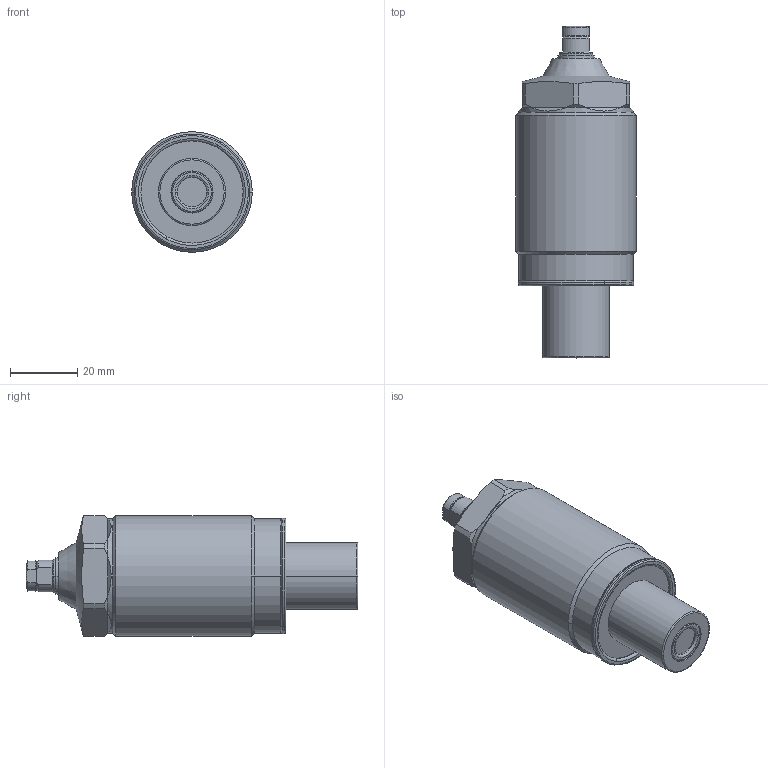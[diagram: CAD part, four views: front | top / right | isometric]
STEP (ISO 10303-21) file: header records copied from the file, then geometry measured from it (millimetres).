
FILE_DESCRIPTION(/* description */ (''),/* implementation_level */ '2;1');
FILE_NAME(/* name */ 'TNL36-Q.stp',/* time_stamp */ '2025-01-09T09:55:13+08:00',/* author */ (''),/* organization */ (''),/* preprocessor_version */ 'ST-DEVELOPER v16.7',/* originating_system */ 'SIEMENS PLM Software NX 12.0',/* authorisation */ '');
FILE_SCHEMA (('AUTOMOTIVE_DESIGN { 1 0 10303 214 3 1 1 1 }'));
Length unit declared in the file: millimetre
Products named in the file (6): TNL36-Q-05; TNL36-Q-04; TNL36-Q-03; TNL36-Q-02; TNL36-Q-01; TNL36-Q_stp
Assembly tree (5 placements, depth 2):
  TNL36-Q_stp
    TNL36-Q-01
    TNL36-Q-02
    TNL36-Q-03
    TNL36-Q-04
    TNL36-Q-05
Bounding box: 36 x 99 x 36 mm (x, y, z)
Volume: 69409.9 mm3; surface area: 12441.8 mm2
Topology: 5 solids, 5 shells, 139 faces, 303 edges, 181 vertices
Faces by surface type: cylinder 42, torus 36, plane 34, cone 25, sphere 2
Full cylindrical faces by diameter (mm): 34.2 x1, 36 x1
Entity records: 4102 total; most frequent: CARTESIAN_POINT 842, DIRECTION 740, ORIENTED_EDGE 596, AXIS2_PLACEMENT_3D 331, EDGE_CURVE 298, VERTEX_POINT 181, CIRCLE 180, EDGE_LOOP 157
